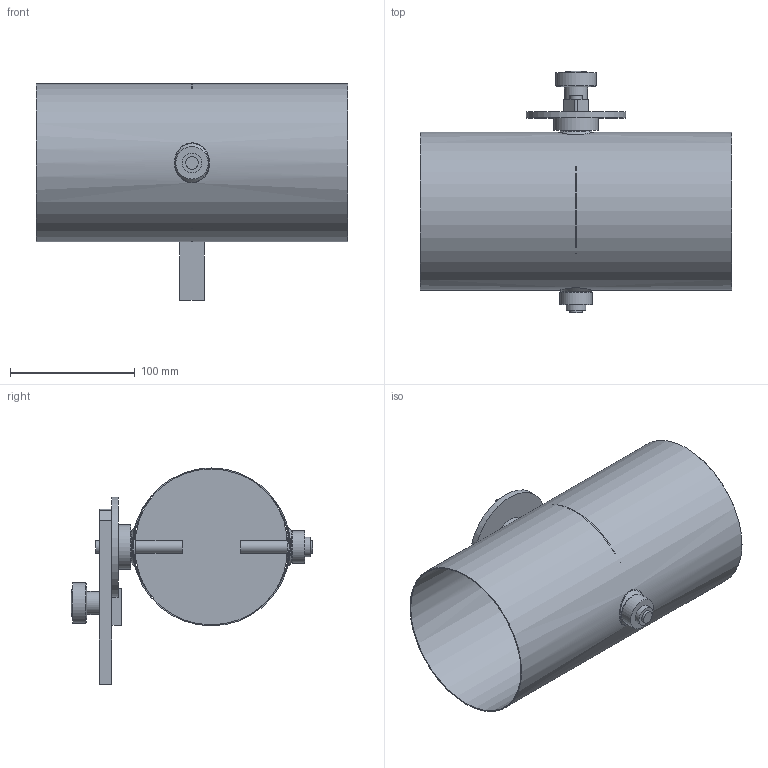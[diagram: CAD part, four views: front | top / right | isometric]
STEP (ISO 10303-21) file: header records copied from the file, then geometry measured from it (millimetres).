
FILE_DESCRIPTION(/* description */ (''),/* implementation_level */ '2;1');
FILE_NAME(/* name */ 'METU_Drosselklappe_glatt_verzinkt_AA122-80B__125_L250_handbetaetigt.stp',/* time_stamp */ '2022-04-22T14:21:56+02:00',/* author */ (''),/* organization */ (''),/* preprocessor_version */ 'ST-DEVELOPER v11',/* originating_system */ 'SIEMENS UGS NX 6.0',/* authorisation */ '');
FILE_SCHEMA (('CONFIG_CONTROL_DESIGN'));
Length unit declared in the file: millimetre
Products named in the file (1): d.ga332Aq8z3
Bounding box: 250 x 193.97 x 173.3 mm (x, y, z)
Volume: 185704 mm3; surface area: 262305.8 mm2
Topology: 12 solids, 12 shells, 90 faces, 185 edges, 128 vertices
Faces by surface type: plane 44, cylinder 32, cone 4, bspline 4, torus 4, sphere 2
Full cylindrical faces by diameter (mm): 4.2 x1, 4.4 x4, 5 x1, 6 x1, 10 x5, 15 x3, 15.85 x2, 16 x2, 18.5 x1, 24 x2, 25 x1, 26 x1, 32.5 x1, 36 x1, 80 x1, 125 x1, 126.6 x1
Entity records: 2734 total; most frequent: CARTESIAN_POINT 951, DIRECTION 360, ORIENTED_EDGE 244, EDGE_LOOP 170, AXIS2_PLACEMENT_3D 159, FACE_BOUND 148, EDGE_CURVE 122, VERTEX_POINT 106
